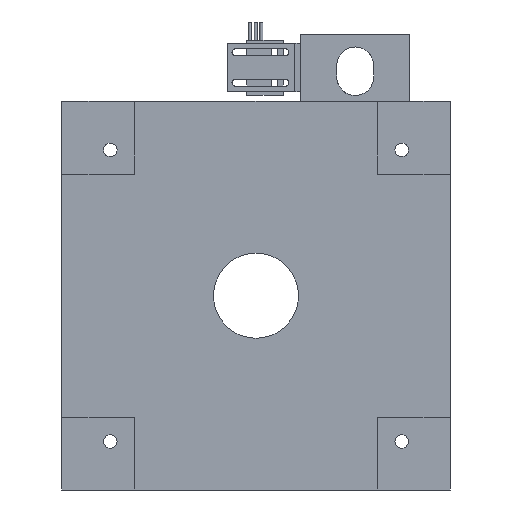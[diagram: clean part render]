
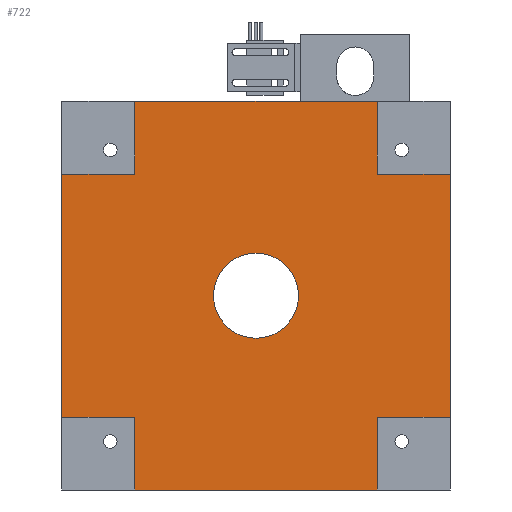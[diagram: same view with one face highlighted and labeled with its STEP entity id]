
A CAD part, front view. The second image highlights one B-rep face of the part: STEP entity #722.
In plain terms, the highlighted planar face has unit normal (0, -1, 0).
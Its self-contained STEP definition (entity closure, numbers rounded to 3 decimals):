
#67=DIRECTION('',(0.,0.,1.));
#68=VECTOR('',#67,127.);
#69=CARTESIAN_POINT('',(-101.6,-48.514,-63.5));
#70=LINE('',#69,#68);
#83=CARTESIAN_POINT('',(0.,-48.514,0.));
#84=DIRECTION('',(0.,-1.,0.));
#85=DIRECTION('',(1.,0.,0.));
#86=AXIS2_PLACEMENT_3D('',#83,#84,#85);
#88=CARTESIAN_POINT('',(0.,-48.514,0.));
#89=DIRECTION('',(0.,-1.,0.));
#90=DIRECTION('',(-1.,0.,0.));
#91=AXIS2_PLACEMENT_3D('',#88,#89,#90);
#93=DIRECTION('',(-1.,0.,0.));
#94=VECTOR('',#93,38.1);
#95=CARTESIAN_POINT('',(-63.5,-48.514,63.5));
#96=LINE('',#95,#94);
#97=DIRECTION('',(0.,0.,-1.));
#98=VECTOR('',#97,38.1);
#99=CARTESIAN_POINT('',(-63.5,-48.514,101.6));
#100=LINE('',#99,#98);
#101=DIRECTION('',(0.,0.,1.));
#102=VECTOR('',#101,38.1);
#103=CARTESIAN_POINT('',(63.5,-48.514,63.5));
#104=LINE('',#103,#102);
#105=DIRECTION('',(-1.,0.,0.));
#106=VECTOR('',#105,38.1);
#107=CARTESIAN_POINT('',(101.6,-48.514,63.5));
#108=LINE('',#107,#106);
#109=DIRECTION('',(1.,0.,0.));
#110=VECTOR('',#109,38.1);
#111=CARTESIAN_POINT('',(63.5,-48.514,-63.5));
#112=LINE('',#111,#110);
#113=DIRECTION('',(0.,0.,1.));
#114=VECTOR('',#113,38.1);
#115=CARTESIAN_POINT('',(63.5,-48.514,-101.6));
#116=LINE('',#115,#114);
#117=DIRECTION('',(0.,0.,-1.));
#118=VECTOR('',#117,38.1);
#119=CARTESIAN_POINT('',(-63.5,-48.514,-63.5));
#120=LINE('',#119,#118);
#121=DIRECTION('',(1.,0.,0.));
#122=VECTOR('',#121,38.1);
#123=CARTESIAN_POINT('',(-101.6,-48.514,-63.5));
#124=LINE('',#123,#122);
#399=DIRECTION('',(1.,0.,0.));
#400=VECTOR('',#399,127.);
#401=CARTESIAN_POINT('',(-63.5,-48.514,101.6));
#402=LINE('',#401,#400);
#441=DIRECTION('',(0.,0.,1.));
#442=VECTOR('',#441,127.);
#443=CARTESIAN_POINT('',(101.6,-48.514,-63.5));
#444=LINE('',#443,#442);
#457=DIRECTION('',(1.,0.,0.));
#458=VECTOR('',#457,127.);
#459=CARTESIAN_POINT('',(-63.5,-48.514,-101.6));
#460=LINE('',#459,#458);
#565=CARTESIAN_POINT('',(-101.6,-48.514,-63.5));
#566=CARTESIAN_POINT('',(-101.6,-48.514,63.5));
#567=VERTEX_POINT('',#565);
#568=VERTEX_POINT('',#566);
#573=CARTESIAN_POINT('',(101.6,-48.514,-63.5));
#574=CARTESIAN_POINT('',(101.6,-48.514,63.5));
#575=VERTEX_POINT('',#573);
#576=VERTEX_POINT('',#574);
#581=CARTESIAN_POINT('',(22.225,-48.514,0.));
#582=CARTESIAN_POINT('',(-22.225,-48.514,0.));
#583=VERTEX_POINT('',#581);
#584=VERTEX_POINT('',#582);
#601=CARTESIAN_POINT('',(-63.5,-48.514,-101.6));
#602=CARTESIAN_POINT('',(63.5,-48.514,-101.6));
#603=VERTEX_POINT('',#601);
#604=VERTEX_POINT('',#602);
#605=CARTESIAN_POINT('',(-63.5,-48.514,101.6));
#606=CARTESIAN_POINT('',(63.5,-48.514,101.6));
#607=VERTEX_POINT('',#605);
#608=VERTEX_POINT('',#606);
#609=CARTESIAN_POINT('',(63.5,-48.514,-63.5));
#610=VERTEX_POINT('',#609);
#611=CARTESIAN_POINT('',(-63.5,-48.514,-63.5));
#612=VERTEX_POINT('',#611);
#613=CARTESIAN_POINT('',(63.5,-48.514,63.5));
#614=VERTEX_POINT('',#613);
#615=CARTESIAN_POINT('',(-63.5,-48.514,63.5));
#616=VERTEX_POINT('',#615);
#686=CARTESIAN_POINT('',(0.,-48.514,0.));
#687=DIRECTION('',(0.,-1.,0.));
#688=DIRECTION('',(1.,0.,0.));
#689=AXIS2_PLACEMENT_3D('',#686,#687,#688);
#690=PLANE('',#689);
#692=ORIENTED_EDGE('',*,*,#691,.F.);
#694=ORIENTED_EDGE('',*,*,#693,.F.);
#696=ORIENTED_EDGE('',*,*,#695,.T.);
#698=ORIENTED_EDGE('',*,*,#697,.F.);
#700=ORIENTED_EDGE('',*,*,#699,.F.);
#702=ORIENTED_EDGE('',*,*,#701,.F.);
#704=ORIENTED_EDGE('',*,*,#703,.F.);
#706=ORIENTED_EDGE('',*,*,#705,.F.);
#708=ORIENTED_EDGE('',*,*,#707,.F.);
#710=ORIENTED_EDGE('',*,*,#709,.F.);
#712=ORIENTED_EDGE('',*,*,#711,.F.);
#713=ORIENTED_EDGE('',*,*,#668,.T.);
#714=EDGE_LOOP('',(#692,#694,#696,#698,#700,#702,#704,#706,#708,#710,#712,
#713));
#715=FACE_OUTER_BOUND('',#714,.F.);
#717=ORIENTED_EDGE('',*,*,#716,.T.);
#719=ORIENTED_EDGE('',*,*,#718,.T.);
#720=EDGE_LOOP('',(#717,#719));
#721=FACE_BOUND('',#720,.F.);
#722=ADVANCED_FACE('',(#715,#721),#690,.T.);
#87=CIRCLE('',#86,22.225);
#92=CIRCLE('',#91,22.225);
#668=EDGE_CURVE('',#567,#568,#70,.T.);
#691=EDGE_CURVE('',#616,#568,#96,.T.);
#693=EDGE_CURVE('',#607,#616,#100,.T.);
#695=EDGE_CURVE('',#607,#608,#402,.T.);
#697=EDGE_CURVE('',#614,#608,#104,.T.);
#699=EDGE_CURVE('',#576,#614,#108,.T.);
#701=EDGE_CURVE('',#575,#576,#444,.T.);
#703=EDGE_CURVE('',#610,#575,#112,.T.);
#705=EDGE_CURVE('',#604,#610,#116,.T.);
#707=EDGE_CURVE('',#603,#604,#460,.T.);
#709=EDGE_CURVE('',#612,#603,#120,.T.);
#711=EDGE_CURVE('',#567,#612,#124,.T.);
#716=EDGE_CURVE('',#583,#584,#87,.T.);
#718=EDGE_CURVE('',#584,#583,#92,.T.);
